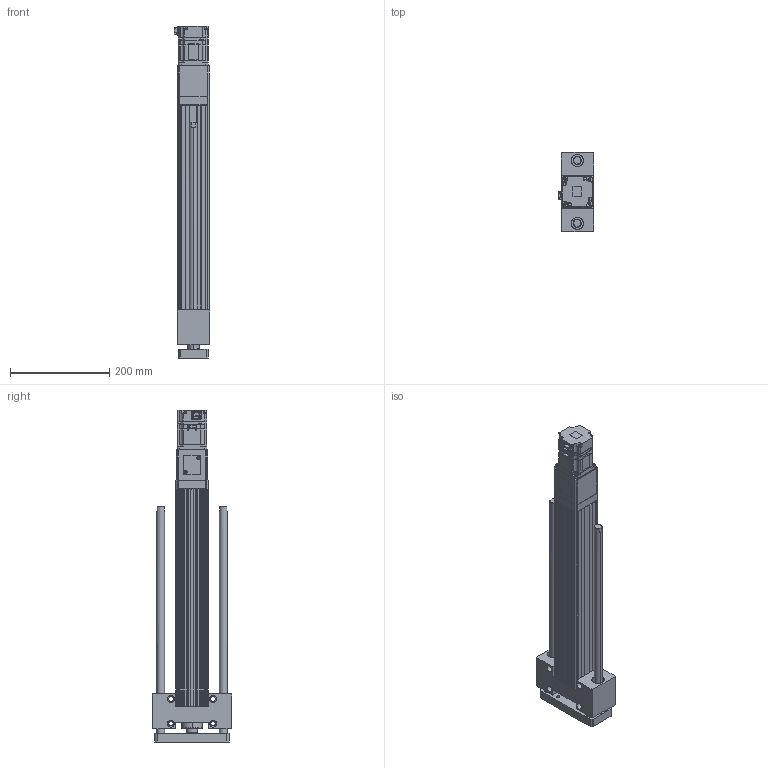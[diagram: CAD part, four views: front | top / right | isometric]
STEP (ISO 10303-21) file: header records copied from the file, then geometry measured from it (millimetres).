
FILE_DESCRIPTION (( 'STEP AP203' ), '1' );
FILE_NAME ('ANS065-HS350-05(10)-W20.STEP', '2019-03-01T04:34:58', ( 'user' ), ( '' ), 'SwSTEP 2.0', 'SolidWorks 2013', '' );
FILE_SCHEMA (( 'CONFIG_CONTROL_DESIGN' ));
Length unit declared in the file: millimetre
Products named in the file (4): ANS065 HS350 VER2; ANS065 ROD ST350 G; sgmjv_02a_a21; ANS065-HS350-05(10)-W20
Assembly tree (3 placements, depth 2):
  ANS065-HS350-05(10)-W20
    ANS065 HS350 VER2
    ANS065 ROD ST350 G
    sgmjv_02a_a21
Bounding box: 72.3 x 160 x 670.6 mm (x, y, z)
Volume: 2308778.8 mm3; surface area: 525286.7 mm2
Topology: 3 solids, 7 shells, 1237 faces, 3245 edges, 2091 vertices
Faces by surface type: plane 697, cylinder 430, cone 110
Entity records: 38305 total; most frequent: CARTESIAN_POINT 6793, DIRECTION 6569, ORIENTED_EDGE 6434, EDGE_CURVE 3217, LINE 2207, VECTOR 2207, AXIS2_PLACEMENT_3D 2181, VERTEX_POINT 2091
